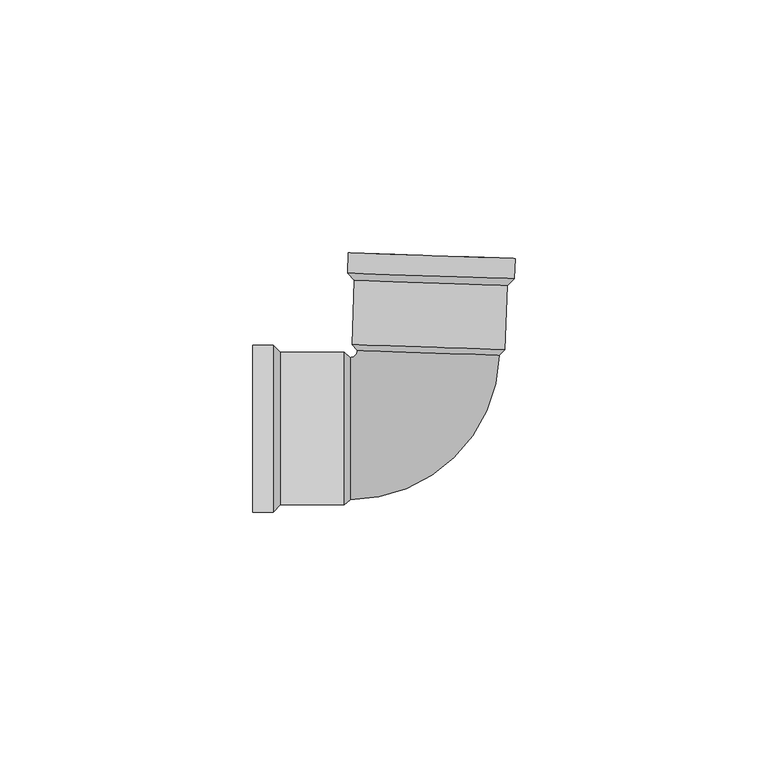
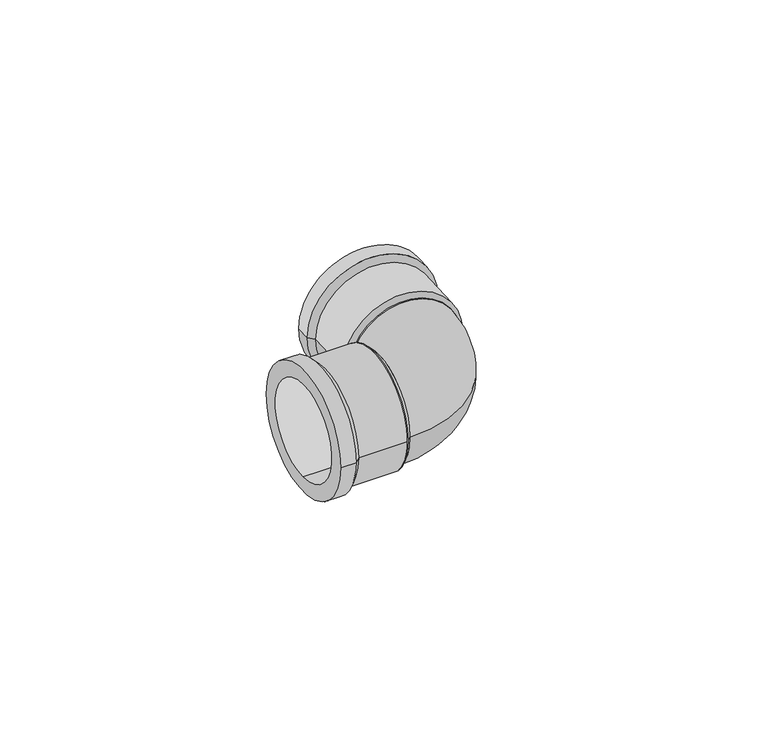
"""IFC4 building model written with IfcOpenShell, lengths in millimetres: pipe fitting geometry, Joelho 45_90 - Agua Fria_Soldavel : Joelho 45_90 - Agua Fria_Soldavel."""

from ifc_helpers import new_model, si_unit, point, frame, origin, place, context, project, spatial, polyline, circle_curve, ellipse_curve, trimmed, source, transform, mapped, element, save
from ifc_brep_helpers import plane_surface, cylinder_surface, revolved_surface, advanced_brep


def pipe_fitting_5dcb9ee0(model_context):
    return source(origin(), model_context, "Body", "AdvancedBrep", [
        advanced_brep(
        [(15.6286606, 15.5780423, 0.0), (-14.5545127, 16.5860362, 0.0), (14.5325362, 14.5140351, 0.0), (-13.5318183, 15.4512692, 0.0)],
        [
            (0, 1, circle_curve(frame((0.537074, 16.0820393, 0.0), z_axis=(0.033377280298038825, 0.9994428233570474, 0.0), x_axis=(0.9994428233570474, -0.03337728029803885, 0.0)), 15.1)),
            (1, 0, circle_curve(frame((0.537074, 16.0820393, 0.0), z_axis=(0.033377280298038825, 0.9994428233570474, 0.0), x_axis=(-0.9994428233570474, 0.03337728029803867, 0.0)), 15.1)),
            (2, 3, circle_curve(frame((0.500359, 14.9826522, 0.0), z_axis=(-0.033377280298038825, -0.9994428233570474, 0.0), x_axis=(-0.9994428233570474, 0.03337728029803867, 0.0)), 14.04)),
            (3, 2, circle_curve(frame((0.500359, 14.9826522, 0.0), z_axis=(-0.033377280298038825, -0.9994428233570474, 0.0), x_axis=(0.9994428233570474, -0.03337728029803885, 0.0)), 14.04)),
            (0, 2),
            (3, 1),
        ],
        [
            plane_surface(frame((0.537074, 16.0820393, 0.0), z_axis=(0.03337728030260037, 0.999442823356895, 0.0), x_axis=(0.0, 0.0, -1.0))),
            plane_surface(frame((0.500359, 14.9826522, 0.0), z_axis=(-0.03337728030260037, -0.999442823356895, 0.0), x_axis=(0.0, 0.0, -1.0))),
            revolved_surface(polyline([(-13.531818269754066, 15.451269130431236, 0.0), (-14.554512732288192, 16.586036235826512, 0.0)]), (0.0140583, 0.4209588, 0.0), (0.033377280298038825, 0.9994428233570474, 0.0)),
            revolved_surface(polyline([(14.532536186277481, 14.514035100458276, 0.0), (15.628660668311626, 15.578042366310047, 0.0)]), (0.0140583, 0.4209588, 0.0), (0.033377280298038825, 0.9994428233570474, 0.0)),
        ],
        [
            (0, [[1, 2]]),
            (1, [[3, 4]]),
            (2, [[-1, 5, -4, 6]]),
            (3, [[-2, -6, -3, -5]]),
        ],
    ),
        advanced_brep(
        [(-16.0910048, 15.1, 0.0), (-16.0910048, -15.1, 0.0), (-14.9910048, 14.04, 0.0), (-14.9910048, -14.04, 0.0)],
        [
            (0, 1, circle_curve(frame((-16.0910048, 0.0, 0.0), z_axis=(-1.0, 0.0, 0.0), x_axis=(0.0, 1.0, 0.0)), 15.1)),
            (1, 0, circle_curve(frame((-16.0910048, 0.0, 0.0), z_axis=(-1.0, 0.0, 0.0), x_axis=(0.0, -1.0, 0.0)), 15.1)),
            (2, 3, circle_curve(frame((-14.9910048, 0.0, 0.0), z_axis=(1.0, 0.0, 0.0), x_axis=(0.0, -1.0, 0.0)), 14.04)),
            (3, 2, circle_curve(frame((-14.9910048, 0.0, 0.0), z_axis=(1.0, 0.0, 0.0), x_axis=(0.0, 1.0, 0.0)), 14.04)),
            (3, 1),
            (0, 2),
        ],
        [
            plane_surface(frame((-16.0910048, 0.0, 0.0), z_axis=(-1.0, 0.0, 0.0), x_axis=(0.0, 0.0, -1.0))),
            plane_surface(frame((-14.9910048, 0.0, 0.0), z_axis=(1.0, 0.0, 0.0), x_axis=(0.0, 0.0, -1.0))),
            revolved_surface(polyline([(-14.9910048, -14.039999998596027, 0.0), (-16.0910048, -15.1, 0.0)]), (-0.4211935, 0.0, 0.0), (-1.0, 0.0, 0.0)),
            revolved_surface(polyline([(-14.9910048, 14.039999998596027, 0.0), (-16.0910048, 15.1, 0.0)]), (-0.4211935, 0.0, 0.0), (-1.0, 0.0, 0.0)),
        ],
        [
            (0, [[1, 2]]),
            (1, [[3, 4]]),
            (2, [[-4, 5, -1, 6]]),
            (3, [[-3, -6, -2, -5]]),
        ],
    ),
        advanced_brep(
        [(-34.1910048, 16.5, 0.0), (-34.1910048, -16.5, 0.0), (-34.1910048, 0.0, 12.5), (-34.1910048, 0.0, -12.5), (-30.1910048, -16.5, 0.0), (-30.1910048, 16.5, 0.0), (-28.7910048, 15.1, 0.0), (-28.7910048, -15.1, 0.0), (-16.0910048, 15.1, 0.0), (-16.0910048, -15.1, 0.0), (-16.0910048, 0.0, -12.5), (-16.0910048, 0.0, 12.5)],
        [
            (0, 1, circle_curve(frame((-34.1910048, 0.0, 0.0), z_axis=(-1.0, 0.0, 0.0), x_axis=(0.0, -1.0, 0.0)), 16.5)),
            (1, 0, circle_curve(frame((-34.1910048, 0.0, 0.0), z_axis=(-1.0, 0.0, 0.0), x_axis=(0.0, -1.0, 0.0)), 16.5)),
            (2, 3, circle_curve(frame((-34.1910048, 0.0, 0.0), z_axis=(1.0, 0.0, 0.0), x_axis=(0.0, 0.0, -1.0)), 12.5)),
            (3, 2, circle_curve(frame((-34.1910048, 0.0, 0.0), z_axis=(1.0, 0.0, 0.0), x_axis=(0.0, 0.0, -1.0)), 12.5)),
            (1, 4),
            (4, 5, circle_curve(frame((-30.1910048, 0.0, 0.0), z_axis=(-1.0, 0.0, 0.0), x_axis=(0.0, -1.0, 0.0)), 16.5)),
            (5, 0),
            (5, 4, circle_curve(frame((-30.1910048, 0.0, 0.0), z_axis=(-1.0, 0.0, 0.0), x_axis=(0.0, -1.0, 0.0)), 16.5)),
            (6, 5),
            (4, 7),
            (7, 6, circle_curve(frame((-28.7910048, 0.0, 0.0), z_axis=(-1.0, 0.0, 0.0), x_axis=(0.0, -1.0, 0.0)), 15.1)),
            (6, 7, circle_curve(frame((-28.7910048, 0.0, 0.0), z_axis=(-1.0, 0.0, 0.0), x_axis=(0.0, 1.0, 0.0)), 15.1)),
            (8, 9, circle_curve(frame((-16.0910048, 0.0, 0.0), z_axis=(1.0, 0.0, 0.0), x_axis=(0.0, -1.0, 0.0)), 15.1)),
            (9, 8, circle_curve(frame((-16.0910048, 0.0, 0.0), z_axis=(1.0, 0.0, 0.0), x_axis=(0.0, -1.0, 0.0)), 15.1)),
            (10, 11, circle_curve(frame((-16.0910048, 0.0, 0.0), z_axis=(-1.0, 0.0, 0.0), x_axis=(0.0, 0.0, -1.0)), 12.5)),
            (11, 10, circle_curve(frame((-16.0910048, 0.0, 0.0), z_axis=(-1.0, 0.0, 0.0), x_axis=(0.0, 0.0, -1.0)), 12.5)),
            (8, 6),
            (7, 9),
            (10, 3),
            (2, 11),
        ],
        [
            plane_surface(frame((-34.1910048, 0.0, 0.0), z_axis=(-1.0, 0.0, 0.0), x_axis=(0.0, 0.0, 1.0))),
            cylinder_surface(frame((-30.1910048, 0.0, 0.0), z_axis=(1.0, 0.0, 0.0), x_axis=(0.0, -1.0, 0.0)), 16.5),
            revolved_surface(polyline([(-28.7910048, 15.1, 0.0), (-30.1910048, 16.5, 0.0)]), (-13.6910048, 0.0, 0.0), (-1.0, 0.0, 0.0)),
            plane_surface(frame((-16.0910048, 0.0, 0.0), z_axis=(1.0, 0.0, 0.0), x_axis=(0.0, 0.0, 1.0))),
            cylinder_surface(frame((-16.0910048, 0.0, 0.0), z_axis=(1.0, 0.0, 0.0), x_axis=(0.0, -1.0, 0.0)), 15.1),
            revolved_surface(polyline([(-16.0910048, 0.0, -12.5), (-34.1910048, 0.0, -12.5)]), (-34.1910048, 0.0, 0.0), (1.0, 0.0, 0.0)),
        ],
        [
            (0, [[1, 2], [3, 4]]),
            (1, [[-2, 5, 6, 7]]),
            (1, [[-1, -7, 8, -5]]),
            (2, [[9, -6, 10, 11]]),
            (2, [[-9, 12, -10, -8]]),
            (3, [[13, 14], [15, 16]]),
            (4, [[-13, 17, -11, 18]]),
            (4, [[-14, -18, -12, -17]]),
            (5, [[19, -3, 20, -15]]),
            (5, [[-19, -16, -20, -4]]),
        ],
    ),
        advanced_brep(
        [(-14.9910048, -14.04, 0.0), (-14.9910048, 14.04, 0.0), (14.5325362, 14.5140351, 0.0), (-13.5318183, 15.4512692, 0.0)],
        [
            (0, 1, circle_curve(frame((-14.9910048, 0.0, 0.0), z_axis=(-1.0, 0.0, 0.0), x_axis=(0.0, 1.0, 0.0)), 14.04)),
            (1, 0, circle_curve(frame((-14.9910048, 0.0, 0.0), z_axis=(-1.0, 0.0, 0.0), x_axis=(0.0, 1.0, 0.0)), 14.04)),
            (2, 3, circle_curve(frame((0.500359, 14.9826522, 0.0), z_axis=(0.03337728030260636, 0.9994428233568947, 0.0), x_axis=(-0.9994428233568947, 0.03337728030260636, 0.0)), 14.04)),
            (3, 2, circle_curve(frame((0.500359, 14.9826522, 0.0), z_axis=(0.03337728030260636, 0.9994428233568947, 0.0), x_axis=(-0.9994428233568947, 0.03337728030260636, 0.0)), 14.04)),
            (0, 2, circle_curve(frame((-14.9910048, 15.5, 0.0), z_axis=(0.0, 0.0, 1.0), x_axis=(0.0, -1.0, 0.0)), 29.54)),
            (3, 1, circle_curve(frame((-14.9910048, 15.5, 0.0), z_axis=(0.0, 0.0, -1.0), x_axis=(0.0, -1.0, 0.0)), 1.46)),
        ],
        [
            plane_surface(frame((-14.9910048, 0.0, 0.0), z_axis=(-1.0, 0.0, 0.0), x_axis=(0.0, 0.0, 1.0))),
            plane_surface(frame((0.500359, 14.9826522, 0.0), z_axis=(0.03337728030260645, 0.9994428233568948, 0.0), x_axis=(0.0, 0.0, 1.0))),
            revolved_surface(trimmed(ellipse_curve(frame((-14.9910048, 0.0, 0.0), z_axis=(-1.0, 0.0, 0.0), x_axis=(0.0, 1.0, 0.0)), 14.04, 14.04), [point((-14.9910048, -14.04, 0.0))], [point((-14.9910048, 14.04, 0.0))], True, "CARTESIAN"), (-14.9910048, 15.5, 0.0), (0.0, 0.0, 1.0)),
            revolved_surface(trimmed(ellipse_curve(frame((-14.9910048, 0.0, 0.0), z_axis=(-1.0, 0.0, 0.0), x_axis=(0.0, 1.0, 0.0)), 14.04, 14.04), [point((-14.9910048, 14.04, 0.0))], [point((-14.9910048, -14.04, 0.0))], True, "CARTESIAN"), (-14.9910048, 15.5, 0.0), (0.0, 0.0, 1.0)),
        ],
        [
            (0, [[1, 2]]),
            (1, [[3, 4]]),
            (2, [[-1, 5, -4, 6]]),
            (3, [[-2, -6, -3, -5]]),
        ],
    ),
        advanced_brep(
        [(15.6286606, 15.5780423, 0.0), (-14.5545127, 16.5860362, 0.0), (0.537074, 16.0820393, -12.5), (0.537074, 16.0820393, 12.5), (16.0525521, 28.2709662, 0.0), (-14.1306212, 29.2789601, 0.0), (17.4985002, 29.6234579, 0.0), (-15.483113, 30.7249082, 0.0), (17.6320093, 33.6212292, 0.0), (-15.3496038, 34.7226795, 0.0), (1.1412028, 34.1719544, 12.5), (1.1412028, 34.1719544, -12.5)],
        [
            (0, 1, circle_curve(frame((0.537074, 16.0820393, 0.0), z_axis=(-0.033377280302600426, -0.999442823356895, 0.0), x_axis=(-0.999442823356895, 0.033377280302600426, 0.0)), 15.1)),
            (1, 0, circle_curve(frame((0.537074, 16.0820393, 0.0), z_axis=(-0.033377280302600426, -0.999442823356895, 0.0), x_axis=(-0.999442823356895, 0.033377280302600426, 0.0)), 15.1)),
            (2, 3, circle_curve(frame((0.537074, 16.0820393, 0.0), z_axis=(0.033377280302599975, 0.999442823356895, 0.0), x_axis=(0.0, 0.0, -1.0)), 12.5)),
            (3, 2, circle_curve(frame((0.537074, 16.0820393, 0.0), z_axis=(0.033377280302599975, 0.999442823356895, 0.0), x_axis=(0.0, 0.0, -1.0)), 12.5)),
            (0, 4),
            (4, 5, circle_curve(frame((0.9609654, 28.7749631, 0.0), z_axis=(-0.033377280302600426, -0.999442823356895, 0.0), x_axis=(-0.999442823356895, 0.033377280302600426, 0.0)), 15.1)),
            (5, 1),
            (5, 4, circle_curve(frame((0.9609654, 28.7749631, 0.0), z_axis=(-0.033377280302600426, -0.999442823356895, 0.0), x_axis=(-0.999442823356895, 0.033377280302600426, 0.0)), 15.1)),
            (4, 6),
            (6, 7, circle_curve(frame((1.0076936, 30.1741831, 0.0), z_axis=(-0.033377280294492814, -0.9994428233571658, 0.0), x_axis=(-0.9994428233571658, 0.03337728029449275, 0.0)), 16.5)),
            (7, 5),
            (7, 6, circle_curve(frame((1.0076936, 30.1741831, 0.0), z_axis=(-0.033377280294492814, -0.9994428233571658, 0.0), x_axis=(0.9994428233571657, -0.033377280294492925, 0.0)), 16.5)),
            (8, 9, circle_curve(frame((1.1412028, 34.1719544, 0.0), z_axis=(0.033377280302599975, 0.999442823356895, 0.0), x_axis=(-0.999442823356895, 0.033377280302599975, 0.0)), 16.5)),
            (9, 8, circle_curve(frame((1.1412028, 34.1719544, 0.0), z_axis=(0.033377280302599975, 0.999442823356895, 0.0), x_axis=(-0.999442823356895, 0.033377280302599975, 0.0)), 16.5)),
            (10, 11, circle_curve(frame((1.1412028, 34.1719544, 0.0), z_axis=(-0.033377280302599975, -0.999442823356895, 0.0), x_axis=(0.0, 0.0, -1.0)), 12.5)),
            (11, 10, circle_curve(frame((1.1412028, 34.1719544, 0.0), z_axis=(-0.033377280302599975, -0.999442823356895, 0.0), x_axis=(0.0, 0.0, -1.0)), 12.5)),
            (9, 7),
            (6, 8),
            (2, 11),
            (10, 3),
        ],
        [
            plane_surface(frame((0.537074, 16.0820393, 0.0), z_axis=(-0.03337728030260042, -0.999442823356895, 0.0), x_axis=(0.0, 0.0, 1.0))),
            cylinder_surface(frame((0.537074, 16.0820393, 0.0), z_axis=(-0.033377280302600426, -0.999442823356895, 0.0), x_axis=(-0.999442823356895, 0.033377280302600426, 0.0)), 15.1),
            revolved_surface(polyline([(16.05255207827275, 28.27096616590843, 0.0), (17.498500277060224, 29.62345797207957, 0.0)]), (0.4569685, 13.6833765, 0.0), (0.033377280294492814, 0.9994428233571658, 0.0)),
            plane_surface(frame((1.1412028, 34.1719544, 0.0), z_axis=(0.033377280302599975, 0.999442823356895, 0.0), x_axis=(0.0, 0.0, 1.0))),
            cylinder_surface(frame((1.0076936, 30.1741831, 0.0), z_axis=(-0.033377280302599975, -0.999442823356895, 0.0), x_axis=(-0.999442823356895, 0.033377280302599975, 0.0)), 16.5),
            revolved_surface(polyline([(0.5370740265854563, 16.082039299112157, -12.5), (1.1412028, 34.1719544, -12.5)]), (1.1412028, 34.1719544, 0.0), (-0.033377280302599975, -0.999442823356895, 0.0)),
        ],
        [
            (0, [[1, 2], [3, 4]]),
            (1, [[-1, 5, 6, 7]]),
            (1, [[-2, -7, 8, -5]]),
            (2, [[9, 10, 11, -6]]),
            (2, [[-9, -8, -11, 12]]),
            (3, [[13, 14], [15, 16]]),
            (4, [[-14, 17, -10, 18]]),
            (4, [[-13, -18, -12, -17]]),
            (5, [[19, -15, 20, -3]]),
            (5, [[-19, -4, -20, -16]]),
        ],
    ),
    ])


if __name__ == "__main__":
    model = new_model("IFC4")
    model_context = context("Model", 3, world=origin())
    ifc_project = project(units=[si_unit("LENGTHUNIT", "METRE", prefix="MILLI")], contexts=[model_context])
    site = spatial("IfcSite", under=ifc_project)
    building = spatial("IfcBuilding", under=site)
    placement = place(None, origin())
    pipe_fitting_shape = pipe_fitting_5dcb9ee0(model_context)
    element("IfcPipeFitting", 1, ObjectType="Joelho 45_90 - Agua Fria_Soldavel : Joelho 45_90 - Agua Fria_Soldavel", at=placement, inside=building, context=model_context, shape_type="MappedRepresentation", body=[
        mapped(pipe_fitting_shape, transform((0.0, 0.0, 0.0), x_axis=(1.0, 0.0, 0.0), y_axis=(0.0, 1.0, 0.0), z_axis=(0.0, 0.0, 1.0))),
    ])
    save(model, "model.ifc")
